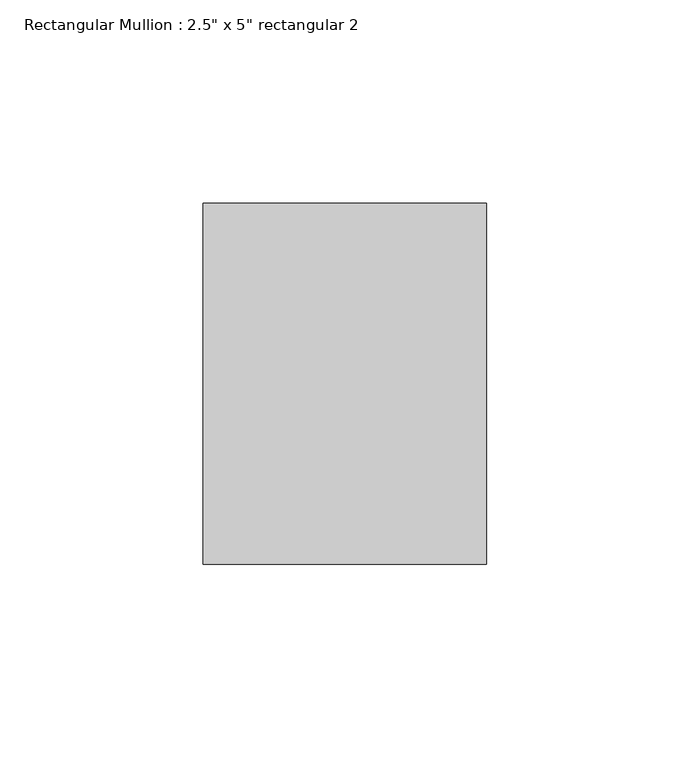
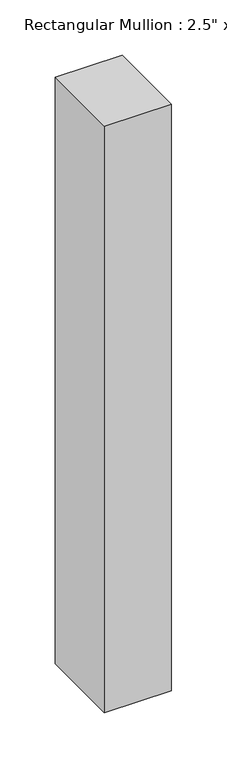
"""IFC4 building model written with IfcOpenShell, lengths in millimetres: member geometry."""

from ifc_helpers import new_model, si_unit, frame, origin, place, context, project, spatial, polyline, outline, extrude, source, transform, mapped, element, save


def member_8cefbdd1(model_context):
    return source(origin(), model_context, "Body", "SweptSolid", [
        extrude(outline(polyline([(0.0, 44.45), (0.0, -44.45), (-69.85, -44.45), (-69.85, 44.45), (0.0, 44.45)])), frame((0.0, 0.0, -647.5774401), z_axis=(0.0, 0.0, 1.0), x_axis=(1.0, 0.0, 0.0)), (0.0, 0.0, 1.0), 647.5774401),
    ])


if __name__ == "__main__":
    model = new_model("IFC4")
    model_context = context("Model", 3, world=origin())
    ifc_project = project(units=[si_unit("LENGTHUNIT", "METRE", prefix="MILLI")], contexts=[model_context])
    site = spatial("IfcSite", under=ifc_project)
    building = spatial("IfcBuilding", under=site)
    placement = place(None, origin())
    member_shape = member_8cefbdd1(model_context)
    element("IfcMember", 1, ObjectType="Rectangular Mullion : 2.5\" x 5\" rectangular 2", at=placement, inside=building, context=model_context, shape_type="MappedRepresentation", body=[
        mapped(member_shape, transform((0.0, 0.0, 0.0), x_axis=(1.0, 0.0, 0.0), y_axis=(0.0, 1.0, 0.0), z_axis=(0.0, 0.0, 1.0))),
    ])
    save(model, "model.ifc")
